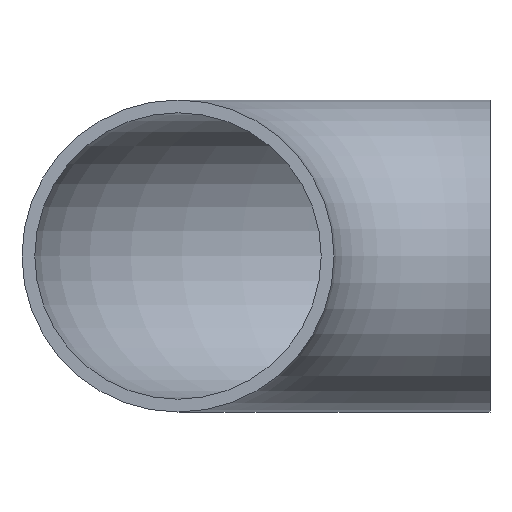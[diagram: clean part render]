
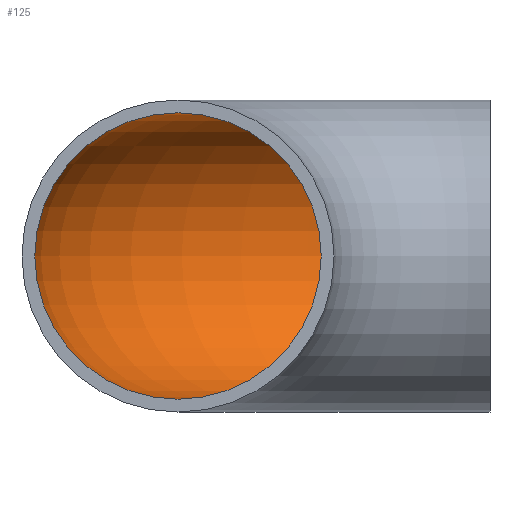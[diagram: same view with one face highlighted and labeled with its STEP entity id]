
A CAD part, front view. The second image highlights one B-rep face of the part: STEP entity #125.
In plain terms, the highlighted toroidal (fillet/blend) face has major radius 90 mm and minor radius 41.32 mm.
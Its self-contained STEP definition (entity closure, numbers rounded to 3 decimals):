
#14=TOROIDAL_SURFACE($,#139,90.,41.32);
#20=FACE_BOUND($,#44,.T.);
#34=FACE_OUTER_BOUND($,#43,.T.);
#43=EDGE_LOOP($,(#92));
#44=EDGE_LOOP($,(#93));
#61=CIRCLE($,#140,41.32);
#62=CIRCLE($,#141,41.32);
#71=VERTEX_POINT($,#248);
#72=VERTEX_POINT($,#250);
#81=EDGE_CURVE($,#71,#71,#61,.T.);
#82=EDGE_CURVE($,#72,#72,#62,.T.);
#92=ORIENTED_EDGE($,*,*,#81,.F.);
#93=ORIENTED_EDGE($,*,*,#82,.T.);
#125=ADVANCED_FACE($,(#34,#20),#14,.F.);
#139=AXIS2_PLACEMENT_3D($,#247,#163,#164);
#140=AXIS2_PLACEMENT_3D($,#249,#165,#166);
#141=AXIS2_PLACEMENT_3D($,#251,#167,#168);
#163=DIRECTION('center_axis',(0.,0.,-1.));
#164=DIRECTION('ref_axis',(-1.,0.,0.));
#165=DIRECTION('center_axis',(-1.,0.,0.));
#166=DIRECTION('ref_axis',(0.,1.,0.));
#167=DIRECTION('center_axis',(0.,-1.,0.));
#168=DIRECTION('ref_axis',(1.,0.,0.));
#247=CARTESIAN_POINT('Origin',(90.,150.,0.));
#248=CARTESIAN_POINT('',(90.,281.32,0.));
#249=CARTESIAN_POINT('Origin',(90.,240.,0.));
#250=CARTESIAN_POINT('',(-41.32,150.,0.));
#251=CARTESIAN_POINT('Origin',(0.,150.,0.));
